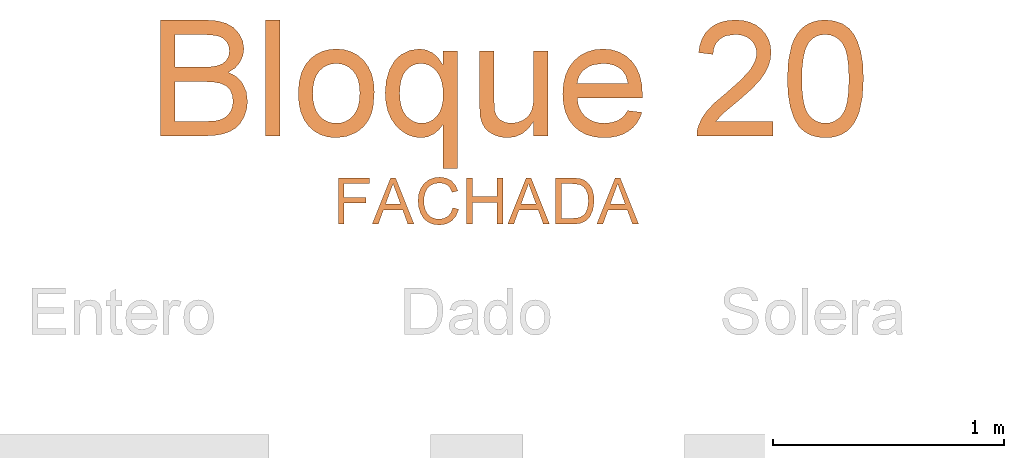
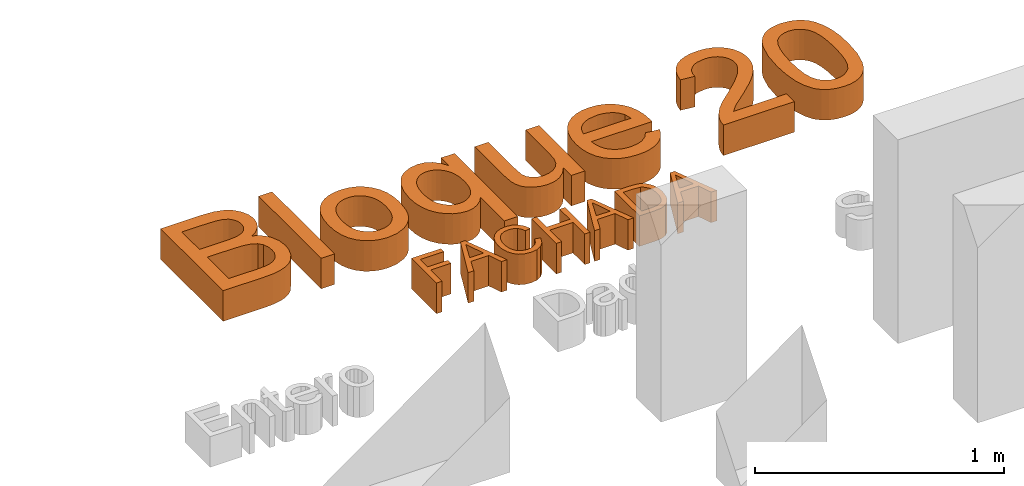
# One storey, part 15 of 19: 2 proxies.
"""IFC2X3 building model written with IfcOpenShell, lengths in metres."""

from ifc_helpers import new_model, entity, si_unit, converted_unit, derived_unit, direction, frame, frame_2d, origin, place, context, subcontext, project, spatial, polyline, rectangle, outline, extrude, type_object, element, save


model = new_model("IFC2X3")

# Units and contexts
model_context = context("Model", 3, precision=1e-05, world=origin(), true_north=direction((6.12303176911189e-17, 1.0)))
body_context = subcontext(model_context, "Body", "Model", "MODEL_VIEW")
ifc_project = project(units=[si_unit("LENGTHUNIT", "METRE"), si_unit("AREAUNIT", "SQUARE_METRE"), si_unit("VOLUMEUNIT", "CUBIC_METRE"), converted_unit("PLANEANGLEUNIT", "DEGREE", entity("IfcRatioMeasure", 0.0174532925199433), si_unit("PLANEANGLEUNIT", "RADIAN"), dimensions=[0, 0, 0, 0, 0, 0, 0]), si_unit("MASSUNIT", "GRAM", prefix="KILO"), derived_unit("MASSDENSITYUNIT", [(si_unit("MASSUNIT", "GRAM", prefix="KILO"), 1), (si_unit("LENGTHUNIT", "METRE"), -3)]), derived_unit("MOMENTOFINERTIAUNIT", [(si_unit("LENGTHUNIT", "METRE"), 4)]), si_unit("TIMEUNIT", "SECOND"), si_unit("FREQUENCYUNIT", "HERTZ"), si_unit("THERMODYNAMICTEMPERATUREUNIT", "DEGREE_CELSIUS"), derived_unit("THERMALTRANSMITTANCEUNIT", [(si_unit("MASSUNIT", "GRAM", prefix="KILO"), 1), (si_unit("THERMODYNAMICTEMPERATUREUNIT", "KELVIN"), -1), (si_unit("TIMEUNIT", "SECOND"), -3)]), derived_unit("VOLUMETRICFLOWRATEUNIT", [(si_unit("LENGTHUNIT", "METRE"), 3), (si_unit("TIMEUNIT", "SECOND"), -1)]), si_unit("ELECTRICCURRENTUNIT", "AMPERE"), si_unit("ELECTRICVOLTAGEUNIT", "VOLT"), si_unit("POWERUNIT", "WATT"), si_unit("FORCEUNIT", "NEWTON", prefix="KILO"), si_unit("ILLUMINANCEUNIT", "LUX"), si_unit("LUMINOUSFLUXUNIT", "LUMEN"), si_unit("LUMINOUSINTENSITYUNIT", "CANDELA"), derived_unit("USERDEFINED", [(si_unit("MASSUNIT", "GRAM", prefix="KILO"), -1), (si_unit("LENGTHUNIT", "METRE"), -2), (si_unit("TIMEUNIT", "SECOND"), 3), (si_unit("LUMINOUSFLUXUNIT", "LUMEN"), 1)]), derived_unit("LINEARVELOCITYUNIT", [(si_unit("LENGTHUNIT", "METRE"), 1), (si_unit("TIMEUNIT", "SECOND"), -1)]), si_unit("PRESSUREUNIT", "PASCAL"), derived_unit("USERDEFINED", [(si_unit("LENGTHUNIT", "METRE"), -2), (si_unit("MASSUNIT", "GRAM", prefix="KILO"), 1), (si_unit("TIMEUNIT", "SECOND"), -2)]), derived_unit("LINEARFORCEUNIT", [(si_unit("MASSUNIT", "GRAM", prefix="KILO"), 1), (si_unit("LENGTHUNIT", "METRE"), 1), (si_unit("TIMEUNIT", "SECOND"), -2), (si_unit("LENGTHUNIT", "METRE"), -1)]), derived_unit("PLANARFORCEUNIT", [(si_unit("MASSUNIT", "GRAM", prefix="KILO"), 1), (si_unit("LENGTHUNIT", "METRE"), 1), (si_unit("TIMEUNIT", "SECOND"), -2), (si_unit("LENGTHUNIT", "METRE"), -2)])], contexts=[model_context])

# Site, building, storey
site_placement = place(None, origin())
site = spatial("IfcSite", under=ifc_project, at=site_placement, Name="Default", CompositionType="ELEMENT")
building_placement = place(site_placement, origin())
building = spatial("IfcBuilding", under=site, at=building_placement, CompositionType="ELEMENT")
storey_placement = place(building_placement, origin())
storey = spatial("IfcBuildingStorey", under=building, at=storey_placement, Name="Nivel 1", CompositionType="ELEMENT", Elevation=0.0)

# Proxies
building_element_proxy_type_1 = type_object("IfcBuildingElementProxyType", Name="Texto de modelo:Título", PredefinedType="NOTDEFINED")
proxy_1_placement = place(storey_placement, origin())
element("IfcBuildingElementProxy", 1, at=proxy_1_placement, inside=storey, type_object=building_element_proxy_type_1, Name="Texto de modelo:Título", ObjectType="Texto de modelo:Título", context=body_context, shape_type="SweptSolid", body=[
    extrude(outline(polyline([(-0.292681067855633, -0.24358102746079), (-0.102486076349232, -0.24358102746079), (-0.0585088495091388, -0.241419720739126), (-0.0219812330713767, -0.234935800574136), (0.00807779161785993, -0.224236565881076), (0.0326492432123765, -0.209429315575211), (0.0527141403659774, -0.188981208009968), (0.0692535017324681, -0.161359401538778), (0.0803359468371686, -0.12887848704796), (0.0840300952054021, -0.0938530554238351), (0.0786191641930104, -0.0518225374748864), (0.0623863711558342, -0.0157394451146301), (0.050403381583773, -0.000395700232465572), (0.0360981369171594, 0.01252615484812), (0.0194706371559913, 0.0230261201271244), (0.00052088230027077, 0.0311041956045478), (0.0303039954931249, 0.0506785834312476), (0.0514725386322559, 0.0755566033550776), (0.0641184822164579, 0.10399081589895), (0.0683337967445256, 0.134233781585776), (0.0633214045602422, 0.167097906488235), (0.0482842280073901, 0.198490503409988), (0.0244025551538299, 0.225177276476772), (-0.00714332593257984, 0.243923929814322), (-0.0483001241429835, 0.255006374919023), (-0.101014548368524, 0.258700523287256), (-0.292681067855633, 0.258700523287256), (-0.292681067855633, -0.24358102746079)]), holes=[polyline([(-0.229895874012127, 0.0546486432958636), (-0.229895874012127, 0.19591532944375), (-0.123945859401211, 0.19591532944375), (-0.0752014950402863, 0.19427518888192), (-0.0432570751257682, 0.189354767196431), (-0.022441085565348, 0.18001976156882), (-0.00708201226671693, 0.165135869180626), (0.0023909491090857, 0.146067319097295), (0.00554860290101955, 0.124178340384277), (0.0021610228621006, 0.101630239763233), (-0.00800171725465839, 0.083282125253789), (-0.0248476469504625, 0.0693485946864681), (-0.0482847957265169, 0.0600442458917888), (-0.0751401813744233, 0.0559975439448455), (-0.115239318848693, 0.0546486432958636), (-0.229895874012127, 0.0546486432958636)]), polyline([(-0.229895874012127, -0.180795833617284), (-0.229895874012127, -0.00813655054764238), (-0.10726854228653, -0.00813655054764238), (-0.0625555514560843, -0.0102365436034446), (-0.0297067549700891, -0.0165365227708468), (-0.00651486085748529, -0.0280175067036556), (0.00922742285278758, -0.0456605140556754), (0.0182405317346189, -0.0682239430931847), (0.021244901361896, -0.0944661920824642), (0.0186850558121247, -0.117060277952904), (0.0110055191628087, -0.136772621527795), (-0.000644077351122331, -0.152882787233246), (-0.0151141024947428, -0.164670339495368), (-0.0329103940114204, -0.172901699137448), (-0.0545387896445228, -0.178343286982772), (-0.10113717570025, -0.180795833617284), (-0.229895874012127, -0.180795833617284)])]), frame((7.97366628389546, 11.1571087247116, 0.0)), (0.0, 0.0, 1.0), 0.15),
    extrude(rectangle(XDim=0.062785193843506, YDim=0.502281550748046, at=frame_2d((0.0, 1.08246744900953e-15), x_axis=(1.0, 0.0))), frame((8.167570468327, 11.1646684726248, 0.0)), (0.0, 0.0, 1.0), 0.15),
    extrude(outline(polyline([(-0.0131957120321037, -0.170548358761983), (0.0307665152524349, -0.170548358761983), (0.0696520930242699, -0.164512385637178), (0.103461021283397, -0.152440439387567), (0.13219330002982, -0.134332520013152), (0.155411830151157, -0.111243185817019), (0.172679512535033, -0.084226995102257), (0.183996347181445, -0.0532839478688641), (0.189362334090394, -0.0184140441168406), (0.186618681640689, 0.0261717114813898), (0.172415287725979, 0.0679068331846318), (0.161237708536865, 0.0869767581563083), (0.14763823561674, 0.10387672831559), (0.131616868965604, 0.118606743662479), (0.113173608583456, 0.131166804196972), (0.0915479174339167, 0.141494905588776), (0.0659792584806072, 0.149529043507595), (0.00301303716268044, 0.158715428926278), (-0.0385534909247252, 0.158529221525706), (-0.0757586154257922, 0.152292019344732), (-0.108602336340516, 0.140003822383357), (-0.137084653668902, 0.121664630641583), (-0.160392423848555, 0.0984428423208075), (-0.177712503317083, 0.07150685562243), (-0.189044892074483, 0.040856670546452), (-0.19438959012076, 0.00649228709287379), (-0.1938749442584, -0.0249843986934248), (-0.18810582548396, -0.0543136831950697), (-0.177082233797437, -0.0814955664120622), (-0.160804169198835, -0.106530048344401), (-0.134450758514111, -0.132057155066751), (-0.101064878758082, -0.151235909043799), (-0.0606465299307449, -0.164066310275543), (-0.0131957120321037, -0.170548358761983)]), holes=[polyline([(-0.00925174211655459, -0.107887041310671), (-0.0395162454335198, -0.104102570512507), (-0.0654537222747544, -0.0969584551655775), (-0.0870641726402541, -0.0864546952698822), (-0.104347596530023, -0.0725912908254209), (-0.117399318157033, -0.0562452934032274), (-0.126314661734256, -0.0382937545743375), (-0.131093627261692, -0.0187366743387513), (-0.131736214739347, 0.00242594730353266), (-0.128372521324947, 0.0230712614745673), (-0.12109293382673, 0.0416882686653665), (-0.109897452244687, 0.0582769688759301), (-0.0947860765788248, 0.0728373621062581), (-0.0759345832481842, 0.084436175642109), (-0.0535187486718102, 0.0921401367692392), (-0.0275385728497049, 0.0959492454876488), (0.00200594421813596, 0.0958635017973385), (0.0329855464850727, 0.0920326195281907), (0.0594775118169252, 0.0848525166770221), (0.0814818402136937, 0.0743231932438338), (0.0989985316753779, 0.0604446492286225), (0.112185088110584, 0.0441052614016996), (0.121199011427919, 0.0261934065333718), (0.126040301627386, 0.006709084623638), (0.126708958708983, -0.0143477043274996), (0.123328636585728, -0.0352492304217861), (0.116038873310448, -0.0540230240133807), (0.104839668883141, -0.0706690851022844), (0.0897310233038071, -0.0851874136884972), (0.0707470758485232, -0.0966969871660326), (0.047921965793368, -0.104316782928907), (0.0212556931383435, -0.108046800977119), (-0.00925174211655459, -0.107887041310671)])]), frame((8.44848947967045, 11.0958369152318, 0.0), z_axis=(0.0, 0.0, 1.0), x_axis=(0.064765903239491, -0.997900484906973, 0.0)), (0.0, 0.0, 1.0), 0.15),
    extrude(outline(polyline([(0.11312234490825, -0.311998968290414), (0.175907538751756, -0.311998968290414), (0.175907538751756, 0.198130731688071), (0.11312234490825, 0.198130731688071), (0.11312234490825, 0.135590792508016), (0.0926742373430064, 0.166385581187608), (0.0687312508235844, 0.188381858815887), (0.041293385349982, 0.201579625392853), (0.0103606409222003, 0.20597888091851), (-0.0296465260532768, 0.2003073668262), (-0.0662814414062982, 0.183292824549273), (-0.0827211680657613, 0.170616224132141), (-0.0970915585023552, 0.155272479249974), (-0.119624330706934, 0.116583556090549), (-0.133419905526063, 0.0697092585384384), (-0.138018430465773, 0.0171327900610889), (-0.135121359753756, -0.0259975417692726), (-0.126430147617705, -0.0642764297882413), (-0.111944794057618, -0.0977038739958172), (-0.091665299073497, -0.126279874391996), (-0.0673774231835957, -0.149161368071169), (-0.0408669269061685, -0.165505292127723), (-0.0121338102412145, -0.175311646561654), (0.0188219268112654, -0.178580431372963), (0.046842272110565, -0.174441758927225), (0.073268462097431, -0.162025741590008), (0.096046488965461, -0.143355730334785), (0.11312234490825, -0.120455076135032), (0.11312234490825, -0.311998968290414)]), holes=[polyline([(-0.0752332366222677, 0.0136992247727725), (-0.0735586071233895, 0.04479674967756), (-0.0685347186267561, 0.071502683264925), (-0.0601615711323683, 0.0938170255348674), (-0.0484391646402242, 0.111739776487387), (-0.0343101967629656, 0.125500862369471), (-0.0187173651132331, 0.135330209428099), (-0.00166066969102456, 0.141227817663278), (0.0168598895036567, 0.143193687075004), (0.0356103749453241, 0.141082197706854), (0.0531115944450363, 0.134747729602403), (0.0693635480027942, 0.124190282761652), (0.084366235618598, 0.109409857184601), (0.0969470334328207, 0.090444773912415), (0.105933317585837, 0.0673333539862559), (0.111325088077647, 0.0400755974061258), (0.11312234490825, 0.00867150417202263), (0.111417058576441, -0.0207743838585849), (0.106301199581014, -0.0462042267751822), (0.0977747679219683, -0.0676180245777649), (0.0858377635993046, -0.0850157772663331), (0.0715401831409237, -0.098481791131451), (0.0559320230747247, -0.108100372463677), (0.0390132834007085, -0.113871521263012), (0.0207839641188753, -0.115795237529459), (0.00174223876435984, -0.113771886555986), (-0.0158969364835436, -0.107701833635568), (-0.0321335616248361, -0.0975850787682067), (-0.0469676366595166, -0.0834216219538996), (-0.0593338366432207, -0.0652114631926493), (-0.0681668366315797, -0.0429546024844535), (-0.0734666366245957, -0.0166510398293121), (-0.0752332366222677, 0.0136992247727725)])]), frame((8.79217415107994, 11.0842599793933, 0.0)), (0.0, 0.0, 1.0), 0.15),
    extrude(outline(polyline([(0.099374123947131, -0.102697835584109), (0.162159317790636, -0.102697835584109), (0.162159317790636, 0.266165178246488), (0.099374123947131, 0.266165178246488), (0.099374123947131, 0.0742534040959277), (0.0968296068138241, 0.0338323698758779), (0.0891960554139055, 0.00429451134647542), (0.0754464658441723, -0.017272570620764), (0.0545538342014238, -0.0337812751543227), (0.0292159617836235, -0.0442659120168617), (0.00213064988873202, -0.0477607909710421), (-0.0234831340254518, -0.0443425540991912), (-0.044651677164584, -0.0340878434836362), (-0.060332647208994, -0.0178550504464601), (-0.0694837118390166, 0.00349743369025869), (-0.0732851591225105, 0.0675089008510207), (-0.0732851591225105, 0.266165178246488), (-0.136070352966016, 0.266165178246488), (-0.136070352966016, 0.0379557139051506), (-0.132391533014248, -0.0204148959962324), (-0.125018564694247, -0.0456454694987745), (-0.113690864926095, -0.0666454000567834), (-0.0968602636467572, -0.0839358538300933), (-0.072978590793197, -0.0980379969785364), (-0.0445137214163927, -0.107418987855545), (-0.0139335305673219, -0.110545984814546), (0.0200035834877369, -0.106093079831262), (0.0502005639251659, -0.092734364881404), (0.0766574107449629, -0.0704698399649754), (0.099374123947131, -0.0392995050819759), (0.099374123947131, -0.102697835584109)])), frame((9.19832983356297, 11.0162255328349, 0.0)), (0.0, 0.0, 1.0), 0.15),
    extrude(outline(polyline([(-0.028581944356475, -0.112502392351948), (-0.0578029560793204, -0.167249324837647), (-0.0322328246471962, -0.173818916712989), (-0.007138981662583, -0.176000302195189), (0.0174785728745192, -0.173793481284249), (0.0416198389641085, -0.167198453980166), (0.0648944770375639, -0.15618259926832), (0.0869121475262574, -0.140713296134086), (0.10767285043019, -0.120790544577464), (0.127176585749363, -0.096414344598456), (0.147184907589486, -0.0628437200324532), (0.15966694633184, -0.0291392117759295), (0.16462270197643, 0.00469918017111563), (0.162052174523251, 0.0386714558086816), (0.151934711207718, 0.0717021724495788), (0.134249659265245, 0.102715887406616), (0.10899701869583, 0.131712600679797), (0.0761767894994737, 0.158692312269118), (0.0386809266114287, 0.181565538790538), (0.00190165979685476, 0.196468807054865), (-0.0341610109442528, 0.2034021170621), (-0.0695070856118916, 0.202365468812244), (-0.102928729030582, 0.194014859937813), (-0.133218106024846, 0.179006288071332), (-0.160375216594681, 0.157339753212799), (-0.184400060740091, 0.129015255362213), (-0.202515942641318, 0.0979595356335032), (-0.213436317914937, 0.0659991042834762), (-0.217161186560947, 0.0331339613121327), (-0.213690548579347, -0.000635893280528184), (-0.202780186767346, -0.0339331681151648), (-0.18418588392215, -0.0653805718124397), (-0.157907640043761, -0.0949781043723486), (-0.123945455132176, -0.122725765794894), (-0.109931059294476, -0.132218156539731), (0.0533469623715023, 0.0979071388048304), (0.0716760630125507, 0.0804432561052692), (0.0853873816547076, 0.0618484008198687), (0.0944809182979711, 0.0421225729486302), (0.0989566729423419, 0.0212657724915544), (0.099100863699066, 5.22501907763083e-05), (0.0951997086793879, -0.0207437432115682), (0.087253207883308, -0.0411222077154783), (0.0752613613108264, -0.0610831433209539), (0.0532495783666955, -0.0864379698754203), (0.0289384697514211, -0.103695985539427), (0.0018279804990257, -0.112502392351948), (-0.028581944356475, -0.112502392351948)]), holes=[polyline([(0.00214133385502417, 0.134238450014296), (-0.125018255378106, -0.0449812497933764), (-0.147157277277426, -0.0188609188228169), (-0.156876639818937, 0.00844625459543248), (-0.157470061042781, 0.0298610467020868), (-0.153697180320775, 0.0510722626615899), (-0.145557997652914, 0.0720799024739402), (-0.133052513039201, 0.0928839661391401), (-0.103774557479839, 0.124003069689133), (-0.0871344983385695, 0.134773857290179), (-0.0691603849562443, 0.142352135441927), (-0.0507231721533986, 0.146331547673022), (-0.0326938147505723, 0.146305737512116), (-0.0150723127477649, 0.142274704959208), (0.00214133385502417, 0.134238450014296)])]), frame((9.59677930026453, 11.0651919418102, 0.0), z_axis=(0.0, 0.0, -1.0), x_axis=(-0.578660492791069, -0.815568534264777, 0.0)), (0.0, 0.0, -1.0), 0.15),
    extrude(outline(polyline([(-0.159344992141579, -0.262915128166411), (-0.159344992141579, -0.325700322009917), (0.170277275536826, -0.325700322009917), (0.168897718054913, -0.303596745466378), (0.163532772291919, -0.282412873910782), (0.148035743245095, -0.248583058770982), (0.125334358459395, -0.21576491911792), (0.0925162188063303, -0.181413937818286), (0.0466689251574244, -0.142985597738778), (-0.0210673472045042, -0.082806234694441), (-0.0616723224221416, -0.0383844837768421), (-0.0819518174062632, -0.00233204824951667), (-0.087021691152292, 0.0153262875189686), (-0.0887116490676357, 0.0327393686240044), (-0.0871136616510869, 0.0491216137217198), (-0.0823196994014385, 0.0641779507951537), (-0.0743297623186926, 0.077908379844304), (-0.0631438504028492, 0.0903129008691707), (-0.049382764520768, 0.100586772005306), (-0.0336673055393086, 0.107925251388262), (-0.0159974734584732, 0.112328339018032), (0.00362673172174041, 0.113796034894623), (0.0427908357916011, 0.108063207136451), (0.0590964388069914, 0.100897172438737), (0.0732177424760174, 0.0908647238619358), (0.0846412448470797, 0.0783030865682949), (0.0928534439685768, 0.0635494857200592), (0.0978543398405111, 0.0466039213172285), (0.0996439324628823, 0.0274663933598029), (0.162429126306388, 0.0353145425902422), (0.157029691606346, 0.0677264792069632), (0.147208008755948, 0.0960457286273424), (0.132964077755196, 0.120272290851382), (0.11429789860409, 0.140406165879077), (0.091638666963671, 0.156232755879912), (0.0654155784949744, 0.167537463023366), (0.0356286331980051, 0.174320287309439), (0.00227783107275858, 0.176581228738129), (-0.0313718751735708, 0.174067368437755), (-0.0613197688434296, 0.166525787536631), (-0.0875658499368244, 0.153956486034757), (-0.110110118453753, 0.136359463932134), (-0.12821681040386, 0.115037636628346), (-0.141150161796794, 0.0912939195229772), (-0.148910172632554, 0.0651283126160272), (-0.151496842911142, 0.0365408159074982), (-0.148707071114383, 0.00651244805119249), (-0.140337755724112, -0.0229947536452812), (-0.125484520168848, -0.0530077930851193), (-0.10324298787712, -0.084553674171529), (-0.0677883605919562, -0.122215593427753), (-0.0132958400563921, -0.170576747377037), (0.0589316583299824, -0.230970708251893), (0.0872585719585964, -0.262915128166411), (-0.159344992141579, -0.262915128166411)])), frame((10.1743146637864, 11.2392280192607, 0.0), z_axis=(0.0, 0.0, -1.0), x_axis=(-1.0, 0.0, 0.0)), (0.0, 0.0, -1.0), 0.15),
    extrude(outline(polyline([(-0.00893957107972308, -0.165659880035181), (0.0568706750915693, -0.165659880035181), (0.11368424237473, -0.158970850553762), (0.161501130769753, -0.145592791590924), (0.200321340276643, -0.125525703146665), (0.222304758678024, -0.103736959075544), (0.23850330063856, -0.0777445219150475), (0.248916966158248, -0.047548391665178), (0.253545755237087, -0.0131485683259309), (0.253089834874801, 0.0134788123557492), (0.249082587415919, 0.0378735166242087), (0.241524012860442, 0.0600355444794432), (0.230414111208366, 0.0799648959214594), (0.215698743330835, 0.0977332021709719), (0.197323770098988, 0.113412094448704), (0.175289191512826, 0.127001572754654), (0.149595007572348, 0.138501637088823), (0.0863529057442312, 0.155229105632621), (0.00672254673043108, 0.1635900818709), (-0.0599396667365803, 0.163906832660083), (-0.111714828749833, 0.157806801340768), (-0.152787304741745, 0.146686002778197), (-0.187341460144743, 0.131940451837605), (-0.215242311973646, 0.111568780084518), (-0.236354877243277, 0.0835696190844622), (-0.250127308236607, 0.0495433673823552), (-0.256007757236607, 0.0110904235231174), (-0.255555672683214, -0.0153756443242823), (-0.251577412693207, -0.0396538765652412), (-0.24407297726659, -0.0617442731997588), (-0.233042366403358, -0.0816468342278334), (-0.218407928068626, -0.0994228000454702), (-0.200092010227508, -0.11513341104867), (-0.178094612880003, -0.128778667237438), (-0.152415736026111, -0.140358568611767), (-0.0890270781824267, -0.157231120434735), (-0.00893957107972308, -0.165659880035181)]), holes=[polyline([(-0.00607879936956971, -0.102939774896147), (-0.0592098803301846, -0.0985095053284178), (-0.103096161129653, -0.090713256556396), (-0.137737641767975, -0.0795510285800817), (-0.163134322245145, -0.0650228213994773), (-0.177113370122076, -0.0495185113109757), (-0.186805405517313, -0.0322845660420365), (-0.192210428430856, -0.0133209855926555), (-0.193328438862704, 0.00737223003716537), (-0.189909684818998, 0.0290772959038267), (-0.181832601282, 0.0483816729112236), (-0.169097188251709, 0.0652853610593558), (-0.151703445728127, 0.0797883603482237), (-0.12720375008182, 0.0910836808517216), (-0.0931504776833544, 0.0983643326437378), (-0.0495436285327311, 0.101630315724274), (0.00361679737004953, 0.100881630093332), (0.0579488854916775, 0.0964556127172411), (0.101763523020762, 0.0888469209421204), (0.135060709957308, 0.0780555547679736), (0.157840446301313, 0.0640815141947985), (0.173043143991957, 0.0477670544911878), (0.183609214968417, 0.0299544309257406), (0.189538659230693, 0.0106436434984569), (0.190831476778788, -0.0101653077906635), (0.187576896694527, -0.0307579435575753), (0.179864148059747, -0.0494197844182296), (0.167693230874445, -0.0661508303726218), (0.151064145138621, -0.0809510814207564), (0.127099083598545, -0.0927015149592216), (0.0929202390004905, -0.10028310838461), (0.04852761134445, -0.103695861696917), (-0.00607879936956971, -0.102939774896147)])]), frame((10.5623423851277, 11.1595636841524, 0.0), z_axis=(0.0, 0.0, 1.0), x_axis=(0.0475153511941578, -0.99887050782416, 0.0)), (0.0, 0.0, 1.0), 0.15),
])
building_element_proxy_type_2 = type_object("IfcBuildingElementProxyType", Name="Texto de modelo:Subtítulo", PredefinedType="NOTDEFINED")
proxy_2_placement = place(storey_placement, origin())
element("IfcBuildingElementProxy", 2, at=proxy_2_placement, inside=storey, type_object=building_element_proxy_type_2, Name="Texto de modelo:Subtítulo", ObjectType="Texto de modelo:Subtítulo", context=body_context, shape_type="SweptSolid", body=[
    extrude(outline(polyline([(-0.0609016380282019, -0.116780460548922), (-0.0357875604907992, -0.116780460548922), (-0.0357875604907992, -0.0257419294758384), (0.0583902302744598, -0.0257419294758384), (0.0583902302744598, -0.000627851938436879), (-0.0357875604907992, -0.000627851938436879), (-0.0357875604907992, 0.0590180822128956), (0.0740865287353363, 0.0590180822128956), (0.0740865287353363, 0.0841321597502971), (-0.0609016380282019, 0.0841321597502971), (-0.0609016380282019, -0.116780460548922)])), frame((8.51217100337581, 10.6477158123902, 0.0)), (0.0, 0.0, 1.0), 0.15),
    extrude(outline(polyline([(-0.090860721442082, -0.0659244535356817), (-0.0643732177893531, -0.0659244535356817), (-0.0414173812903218, -0.00313925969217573), (0.0413805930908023, -0.00313925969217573), (0.0643364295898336, -0.0659244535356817), (0.0908729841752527, -0.0659244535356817), (0.0107237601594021, 0.134988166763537), (-0.0106624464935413, 0.134988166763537), (-0.090860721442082, -0.0659244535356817)]), holes=[polyline([(-0.0321958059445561, 0.0219748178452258), (-0.0125263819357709, 0.0756855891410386), (-1.83940997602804e-05, 0.109874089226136), (0.0140592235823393, 0.0713691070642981), (0.0322080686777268, 0.0219748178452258), (-0.0321958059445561, 0.0219748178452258)])]), frame((8.6883018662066, 10.596859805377, 0.0)), (0.0, 0.0, 1.0), 0.15),
    extrude(outline(polyline([(0.00355232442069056, -0.0754517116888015), (0.000735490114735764, -0.10123357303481), (0.0322073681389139, -0.10073341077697), (0.0586340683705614, -0.0912753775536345), (0.0793092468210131, -0.0735495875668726), (0.0935265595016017, -0.0482461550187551), (0.100733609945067, -0.0198295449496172), (0.0996500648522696, 0.00530853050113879), (0.0908072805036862, 0.027603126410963), (0.0747366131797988, 0.0474892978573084), (0.0532622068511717, 0.0640355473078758), (0.0282082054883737, 0.0763103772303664), (-0.000248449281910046, 0.0838799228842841), (-0.0270668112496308, 0.0844731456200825), (-0.0513308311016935, 0.0782421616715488), (-0.0721244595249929, 0.0653390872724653), (-0.0887450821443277, 0.0469994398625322), (-0.100490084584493, 0.0244587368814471), (-0.106560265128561, -0.00268319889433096), (-0.103625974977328, -0.0281270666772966), (-0.092112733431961, -0.0509518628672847), (-0.0724460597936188, -0.0702365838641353), (-0.0579739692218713, -0.0488570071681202), (-0.072030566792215, -0.0342408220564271), (-0.0795803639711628, -0.0186741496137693), (-0.0809958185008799, -0.00185900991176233), (-0.0766493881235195, 0.0165025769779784), (-0.0665154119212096, 0.0357323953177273), (-0.0527173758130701, 0.0494622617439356), (-0.0361963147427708, 0.0575953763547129), (-0.0178932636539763, 0.0600349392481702), (0.000999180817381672, 0.0580310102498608), (0.0192884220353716, 0.0528336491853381), (0.0403234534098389, 0.0428633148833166), (0.0570828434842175, 0.0304574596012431), (0.0687737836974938, 0.0156861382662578), (0.0746034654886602, -0.00138059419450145), (0.0751312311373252, -0.0194006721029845), (0.0709164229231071, -0.0370320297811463), (0.0605954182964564, -0.0555423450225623), (0.0456816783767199, -0.0685820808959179), (0.0265442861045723, -0.0754517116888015), (0.00355232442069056, -0.0754517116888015)])), frame((8.87794299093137, 10.6323370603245, 0.0), z_axis=(0.0, 0.0, -1.0), x_axis=(-0.35334352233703, -0.935493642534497, 0.0)), (0.0, 0.0, -1.0), 0.15),
    extrude(outline(polyline([(-0.0784814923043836, -0.102549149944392), (-0.053367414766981, -0.102549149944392), (-0.053367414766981, -0.00837135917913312), (0.0533674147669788, -0.00837135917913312), (0.0533674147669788, -0.102549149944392), (0.0784814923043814, -0.102549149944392), (0.0784814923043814, 0.0983634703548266), (0.0533674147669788, 0.0983634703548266), (0.0533674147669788, 0.0167427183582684), (-0.053367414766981, 0.0167427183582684), (-0.053367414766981, 0.0983634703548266), (-0.0784814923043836, 0.0983634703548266), (-0.0784814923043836, -0.102549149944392)])), frame((9.08539982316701, 10.6334845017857, 0.0)), (0.0, 0.0, 1.0), 0.15),
    extrude(outline(polyline([(-0.0908607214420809, -0.0659244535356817), (-0.064373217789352, -0.0659244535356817), (-0.0414173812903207, -0.00313925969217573), (0.0413805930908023, -0.00313925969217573), (0.0643364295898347, -0.0659244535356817), (0.0908729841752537, -0.0659244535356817), (0.0107237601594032, 0.134988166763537), (-0.0106624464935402, 0.134988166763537), (-0.0908607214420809, -0.0659244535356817)]), holes=[polyline([(-0.032195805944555, 0.0219748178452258), (-0.0125263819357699, 0.0756855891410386), (-1.83940997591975e-05, 0.109874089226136), (0.0140592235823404, 0.0713691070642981), (0.0322080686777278, 0.0219748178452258), (-0.032195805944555, 0.0219748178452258)])]), frame((9.27534342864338, 10.596859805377, 0.0)), (0.0, 0.0, 1.0), 0.15),
    extrude(outline(polyline([(-0.11220564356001, -0.108781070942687), (-0.0395612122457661, -0.108781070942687), (-0.00726117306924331, -0.105347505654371), (0.016749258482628, -0.0952675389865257), (0.035094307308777, -0.0770451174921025), (0.0488285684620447, -0.0477862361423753), (0.0541751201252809, -0.00724564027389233), (0.0522008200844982, 0.0181382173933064), (0.0462779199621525, 0.0405299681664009), (0.0363818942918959, 0.0595617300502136), (0.0224882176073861, 0.074865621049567), (0.00897468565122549, 0.0836580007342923), (-0.00704044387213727, 0.0892375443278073), (-0.0428966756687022, 0.0921315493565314), (-0.11220564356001, 0.0921315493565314), (-0.11220564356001, -0.108781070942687)]), holes=[polyline([(-0.0870915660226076, -0.0836669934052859), (-0.0870915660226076, 0.0670174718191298), (-0.0433381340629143, 0.0670174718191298), (-0.00772715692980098, 0.06299529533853), (0.00646695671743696, 0.0546075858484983), (0.0183434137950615, 0.0407261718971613), (0.0263816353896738, 0.0205171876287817), (0.0290610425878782, -0.00685323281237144), (0.0276937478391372, -0.0275098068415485), (0.0235918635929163, -0.04484318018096), (0.0170374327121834, -0.0589146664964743), (0.00831249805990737, -0.0697855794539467), (-0.0103268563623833, -0.0800372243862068), (-0.0426514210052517, -0.0836669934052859), (-0.0870915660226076, -0.0836669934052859)])]), frame((9.5052529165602, 10.639716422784, 0.0)), (0.0, 0.0, 1.0), 0.15),
    extrude(outline(polyline([(-0.0908607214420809, -0.0659244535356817), (-0.064373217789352, -0.0659244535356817), (-0.0414173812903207, -0.00313925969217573), (0.0413805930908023, -0.00313925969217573), (0.0643364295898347, -0.0659244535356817), (0.0908729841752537, -0.0659244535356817), (0.0107237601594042, 0.134988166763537), (-0.0106624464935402, 0.134988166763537), (-0.0908607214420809, -0.0659244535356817)]), holes=[polyline([(-0.032195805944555, 0.0219748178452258), (-0.0125263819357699, 0.0756855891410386), (-1.83940997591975e-05, 0.109874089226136), (0.0140592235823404, 0.0713691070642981), (0.0322080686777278, 0.0219748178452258), (-0.032195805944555, 0.0219748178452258)])]), frame((9.66147237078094, 10.596859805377, 0.0)), (0.0, 0.0, 1.0), 0.15),
])

save(model, "model.ifc")
